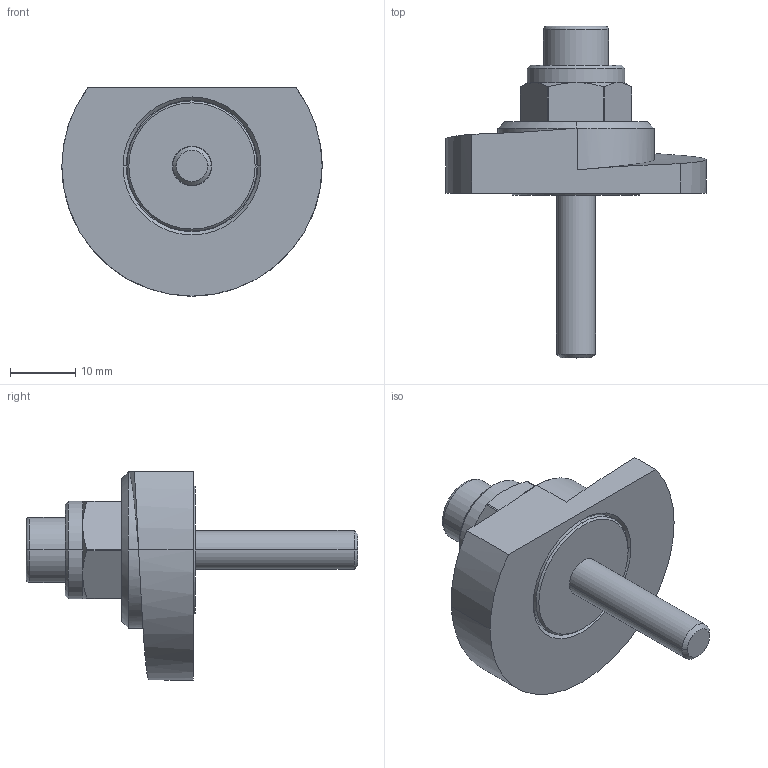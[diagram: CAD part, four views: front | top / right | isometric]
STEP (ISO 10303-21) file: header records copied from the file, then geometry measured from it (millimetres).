
FILE_DESCRIPTION (( 'STEP AP214' ), '1' );
FILE_NAME ('918.1-40-SKS-R-25.step', '2024-05-15T13:01:10', ( '' ), ( '' ), 'SwSTEP 2.0', 'SolidWorks 2022', '' );
FILE_SCHEMA (( 'AUTOMOTIVE_DESIGN' ));
Length unit declared in the file: millimetre
Products named in the file (1): 918.1-40-SKS-R-25
Bounding box: 40 x 51 x 32 mm (x, y, z)
Volume: 11656.9 mm3; surface area: 6679.7 mm2
Topology: 1 solids, 2 shells, 82 faces, 185 edges, 116 vertices
Faces by surface type: cylinder 30, plane 26, cone 22, torus 2, bspline 2
Entity records: 2641 total; most frequent: CARTESIAN_POINT 753, DIRECTION 407, ORIENTED_EDGE 370, EDGE_CURVE 185, AXIS2_PLACEMENT_3D 163, VERTEX_POINT 116, EDGE_LOOP 93, CIRCLE 82
